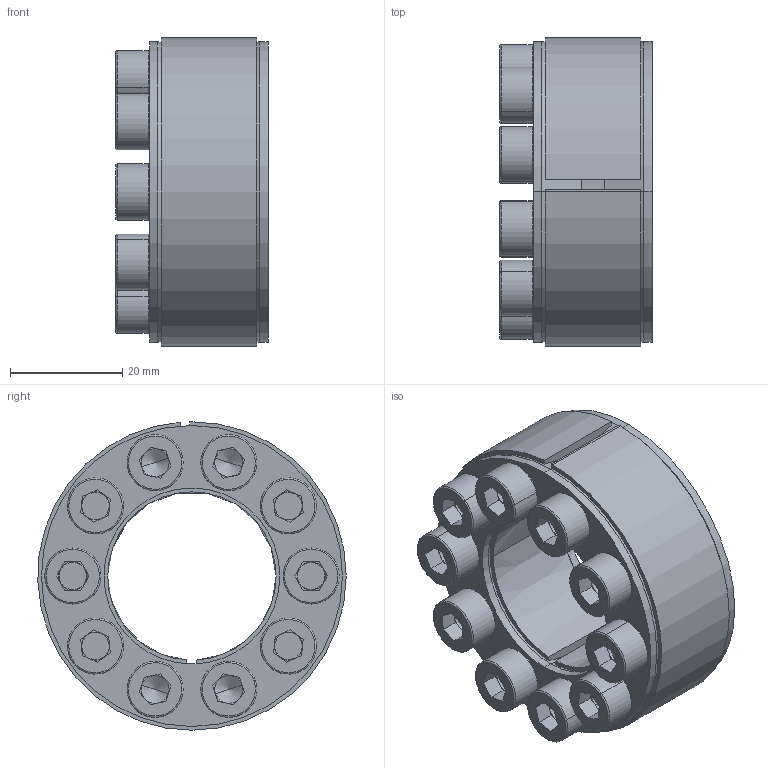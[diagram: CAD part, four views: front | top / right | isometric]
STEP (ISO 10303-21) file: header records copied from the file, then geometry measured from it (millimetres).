
FILE_DESCRIPTION (( 'STEP AP203' ), '1' );
FILE_NAME ('D1-30-55 Assy.STEP', '2017-10-11T03:18:38', ( 'MYCOM' ), ( '' ), 'SwSTEP 2.0', 'SolidWorks 2015', '' );
FILE_SCHEMA (( 'CONFIG_CONTROL_DESIGN' ));
Length unit declared in the file: millimetre
Products named in the file (1): D1-30-55 Assy
Bounding box: 27.14 x 54.98 x 55 mm (x, y, z)
Surface area: 17180 mm2 (no closed solid volume)
Topology: 0 solids, 24 shells, 296 faces, 720 edges, 440 vertices
Faces by surface type: plane 146, cylinder 71, torus 40, cone 39
Entity records: 8640 total; most frequent: DIRECTION 1634, CARTESIAN_POINT 1497, ORIENTED_EDGE 1296, EDGE_CURVE 712, AXIS2_PLACEMENT_3D 637, VERTEX_POINT 440, LINE 360, VECTOR 360
